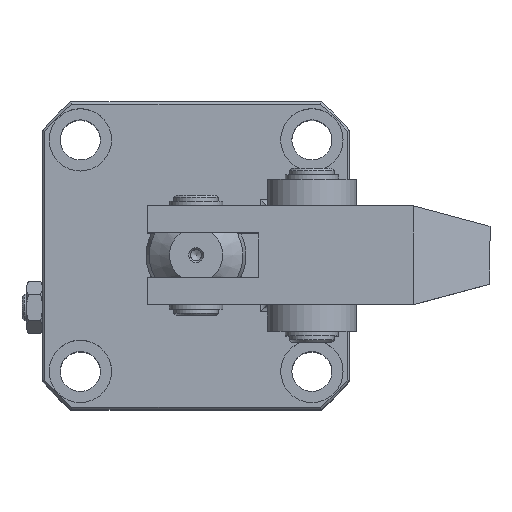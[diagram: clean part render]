
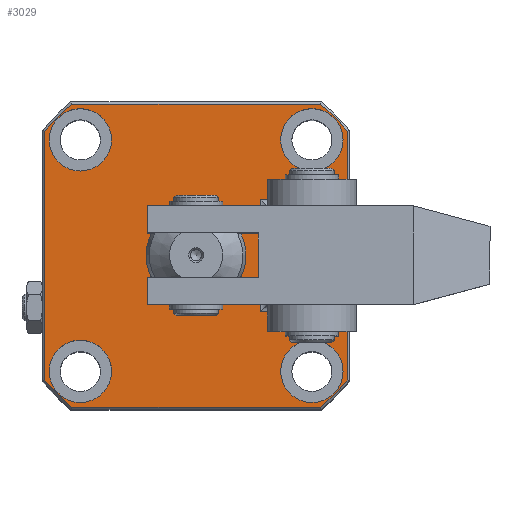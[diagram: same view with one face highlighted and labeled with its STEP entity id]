
A CAD part, top view. The second image highlights one B-rep face of the part: STEP entity #3029.
In plain terms, the highlighted planar face has unit normal (0, 0, 1).
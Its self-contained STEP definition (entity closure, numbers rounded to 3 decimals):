
#226=CIRCLE('',#3330,44.);
#227=CIRCLE('',#3331,44.);
#228=CIRCLE('',#3332,44.);
#229=CIRCLE('',#3333,44.);
#230=CIRCLE('',#3334,7.);
#231=CIRCLE('',#3335,7.);
#232=CIRCLE('',#3336,7.);
#233=CIRCLE('',#3337,7.);
#234=CIRCLE('',#3338,11.2);
#375=PLANE('',#3329);
#481=LINE('',#4654,#644);
#482=LINE('',#4657,#645);
#483=LINE('',#4659,#646);
#484=LINE('',#4663,#647);
#485=LINE('',#4667,#648);
#486=LINE('',#4671,#649);
#487=LINE('',#4675,#650);
#488=LINE('',#4677,#651);
#644=VECTOR('',#3728,1000.);
#645=VECTOR('',#3729,1000.);
#646=VECTOR('',#3730,1000.);
#647=VECTOR('',#3733,1000.);
#648=VECTOR('',#3736,1000.);
#649=VECTOR('',#3739,1000.);
#650=VECTOR('',#3742,1000.);
#651=VECTOR('',#3743,1000.);
#812=ORIENTED_EDGE('',*,*,#1635,.T.);
#813=ORIENTED_EDGE('',*,*,#1636,.T.);
#814=ORIENTED_EDGE('',*,*,#1637,.T.);
#815=ORIENTED_EDGE('',*,*,#1638,.T.);
#816=ORIENTED_EDGE('',*,*,#1639,.T.);
#817=ORIENTED_EDGE('',*,*,#1640,.T.);
#818=ORIENTED_EDGE('',*,*,#1641,.T.);
#819=ORIENTED_EDGE('',*,*,#1642,.T.);
#820=ORIENTED_EDGE('',*,*,#1643,.T.);
#821=ORIENTED_EDGE('',*,*,#1644,.T.);
#822=ORIENTED_EDGE('',*,*,#1645,.T.);
#823=ORIENTED_EDGE('',*,*,#1646,.T.);
#824=ORIENTED_EDGE('',*,*,#1647,.F.);
#825=ORIENTED_EDGE('',*,*,#1648,.F.);
#826=ORIENTED_EDGE('',*,*,#1649,.F.);
#827=ORIENTED_EDGE('',*,*,#1650,.F.);
#828=ORIENTED_EDGE('',*,*,#1651,.T.);
#1635=EDGE_CURVE('',#2046,#2047,#481,.F.);
#1636=EDGE_CURVE('',#2047,#2048,#482,.F.);
#1637=EDGE_CURVE('',#2048,#2049,#483,.T.);
#1638=EDGE_CURVE('',#2049,#2050,#226,.T.);
#1639=EDGE_CURVE('',#2050,#2051,#484,.T.);
#1640=EDGE_CURVE('',#2051,#2052,#227,.T.);
#1641=EDGE_CURVE('',#2052,#2053,#485,.T.);
#1642=EDGE_CURVE('',#2053,#2054,#228,.T.);
#1643=EDGE_CURVE('',#2054,#2055,#486,.T.);
#1644=EDGE_CURVE('',#2055,#2056,#229,.T.);
#1645=EDGE_CURVE('',#2056,#2057,#487,.T.);
#1646=EDGE_CURVE('',#2057,#2046,#488,.F.);
#1647=EDGE_CURVE('',#2058,#2058,#230,.T.);
#1648=EDGE_CURVE('',#2059,#2059,#231,.T.);
#1649=EDGE_CURVE('',#2060,#2060,#232,.T.);
#1650=EDGE_CURVE('',#2061,#2061,#233,.T.);
#1651=EDGE_CURVE('',#2062,#2062,#234,.T.);
#2046=VERTEX_POINT('',#4655);
#2047=VERTEX_POINT('',#4656);
#2048=VERTEX_POINT('',#4658);
#2049=VERTEX_POINT('',#4660);
#2050=VERTEX_POINT('',#4662);
#2051=VERTEX_POINT('',#4664);
#2052=VERTEX_POINT('',#4666);
#2053=VERTEX_POINT('',#4668);
#2054=VERTEX_POINT('',#4670);
#2055=VERTEX_POINT('',#4672);
#2056=VERTEX_POINT('',#4674);
#2057=VERTEX_POINT('',#4676);
#2058=VERTEX_POINT('',#4679);
#2059=VERTEX_POINT('',#4681);
#2060=VERTEX_POINT('',#4683);
#2061=VERTEX_POINT('',#4685);
#2062=VERTEX_POINT('',#4687);
#2335=EDGE_LOOP('',(#812,#813,#814,#815,#816,#817,#818,#819,#820,#821,#822,
#823));
#2336=EDGE_LOOP('',(#824));
#2337=EDGE_LOOP('',(#825));
#2338=EDGE_LOOP('',(#826));
#2339=EDGE_LOOP('',(#827));
#2340=EDGE_LOOP('',(#828));
#2648=FACE_BOUND('',#2335,.T.);
#2649=FACE_BOUND('',#2336,.T.);
#2650=FACE_BOUND('',#2337,.T.);
#2651=FACE_BOUND('',#2338,.T.);
#2652=FACE_BOUND('',#2339,.T.);
#2653=FACE_BOUND('',#2340,.T.);
#3029=ADVANCED_FACE('',(#2648,#2649,#2650,#2651,#2652,#2653),#375,.T.);
#3329=AXIS2_PLACEMENT_3D('',#4653,#3726,#3727);
#3330=AXIS2_PLACEMENT_3D('',#4661,#3731,#3732);
#3331=AXIS2_PLACEMENT_3D('',#4665,#3734,#3735);
#3332=AXIS2_PLACEMENT_3D('',#4669,#3737,#3738);
#3333=AXIS2_PLACEMENT_3D('',#4673,#3740,#3741);
#3334=AXIS2_PLACEMENT_3D('',#4678,#3744,#3745);
#3335=AXIS2_PLACEMENT_3D('',#4680,#3746,#3747);
#3336=AXIS2_PLACEMENT_3D('',#4682,#3748,#3749);
#3337=AXIS2_PLACEMENT_3D('',#4684,#3750,#3751);
#3338=AXIS2_PLACEMENT_3D('',#4686,#3752,#3753);
#3726=DIRECTION('',(0.,0.,1.));
#3727=DIRECTION('',(0.,-1.,0.));
#3728=DIRECTION('',(0.,-1.,0.));
#3729=DIRECTION('',(-1.,0.,0.));
#3730=DIRECTION('',(0.,1.,0.));
#3731=DIRECTION('',(0.,0.,1.));
#3732=DIRECTION('',(0.,-1.,0.));
#3733=DIRECTION('',(-1.,0.,0.));
#3734=DIRECTION('',(0.,0.,1.));
#3735=DIRECTION('',(0.,-1.,0.));
#3736=DIRECTION('',(0.,-1.,0.));
#3737=DIRECTION('',(0.,0.,1.));
#3738=DIRECTION('',(0.,-1.,0.));
#3739=DIRECTION('',(1.,0.,0.));
#3740=DIRECTION('',(0.,0.,1.));
#3741=DIRECTION('',(0.,-1.,0.));
#3742=DIRECTION('',(0.,1.,0.));
#3743=DIRECTION('',(1.,0.,0.));
#3744=DIRECTION('',(0.,0.,1.));
#3745=DIRECTION('',(1.,0.,0.));
#3746=DIRECTION('',(0.,0.,1.));
#3747=DIRECTION('',(1.,0.,0.));
#3748=DIRECTION('',(0.,0.,1.));
#3749=DIRECTION('',(1.,0.,0.));
#3750=DIRECTION('',(0.,0.,1.));
#3751=DIRECTION('',(1.,0.,0.));
#3752=DIRECTION('',(0.,0.,-1.));
#3753=DIRECTION('',(0.,-1.,0.));
#4653=CARTESIAN_POINT('',(0.,0.,90.));
#4654=CARTESIAN_POINT('',(14.5,0.,90.));
#4655=CARTESIAN_POINT('',(14.5,-12.6,90.));
#4656=CARTESIAN_POINT('',(14.5,12.6,90.));
#4657=CARTESIAN_POINT('',(0.,12.6,90.));
#4658=CARTESIAN_POINT('',(34.,12.6,90.));
#4659=CARTESIAN_POINT('',(34.,0.,90.));
#4660=CARTESIAN_POINT('',(34.,27.928,90.));
#4661=CARTESIAN_POINT('',(0.,0.,90.));
#4662=CARTESIAN_POINT('',(27.928,34.,90.));
#4663=CARTESIAN_POINT('',(0.,34.,90.));
#4664=CARTESIAN_POINT('',(-27.928,34.,90.));
#4665=CARTESIAN_POINT('',(0.,0.,90.));
#4666=CARTESIAN_POINT('',(-34.,27.928,90.));
#4667=CARTESIAN_POINT('',(-34.,0.,90.));
#4668=CARTESIAN_POINT('',(-34.,-27.928,90.));
#4669=CARTESIAN_POINT('',(0.,0.,90.));
#4670=CARTESIAN_POINT('',(-27.928,-34.,90.));
#4671=CARTESIAN_POINT('',(0.,-34.,90.));
#4672=CARTESIAN_POINT('',(27.928,-34.,90.));
#4673=CARTESIAN_POINT('',(0.,0.,90.));
#4674=CARTESIAN_POINT('',(34.,-27.928,90.));
#4675=CARTESIAN_POINT('',(34.,0.,90.));
#4676=CARTESIAN_POINT('',(34.,-12.6,90.));
#4677=CARTESIAN_POINT('',(16.,-12.6,90.));
#4678=CARTESIAN_POINT('',(-26.,26.,90.));
#4679=CARTESIAN_POINT('',(-19.,26.,90.));
#4680=CARTESIAN_POINT('',(-26.,-26.,90.));
#4681=CARTESIAN_POINT('',(-19.,-26.,90.));
#4682=CARTESIAN_POINT('',(26.,-26.,90.));
#4683=CARTESIAN_POINT('',(33.,-26.,90.));
#4684=CARTESIAN_POINT('',(26.,26.,90.));
#4685=CARTESIAN_POINT('',(33.,26.,90.));
#4686=CARTESIAN_POINT('',(0.,0.,90.));
#4687=CARTESIAN_POINT('',(0.,-11.2,90.));
